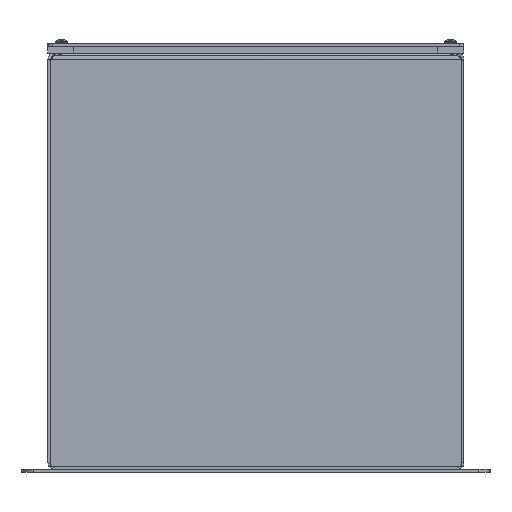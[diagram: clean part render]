
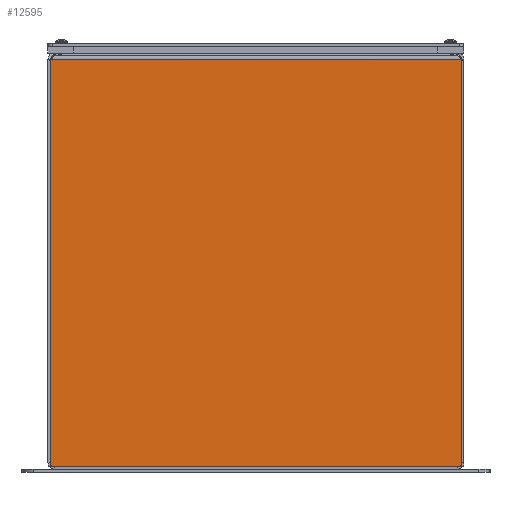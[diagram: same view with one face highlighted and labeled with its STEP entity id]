
A CAD part, left-side view. The second image highlights one B-rep face of the part: STEP entity #12595.
In plain terms, the highlighted planar face has unit normal (-1, 0, 0) as drawn and (0, 1, 0) by its records, which use the part's own axes.
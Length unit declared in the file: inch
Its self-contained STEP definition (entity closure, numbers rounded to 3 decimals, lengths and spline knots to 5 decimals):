
#252 = EDGE_CURVE ( 'NONE', #12845, #12890, #3941, .T. ) ;
#590 = DIRECTION ( 'NONE',  ( 0.931, 0., 0.364 ) ) ;
#1050 = VECTOR ( 'NONE', #590, 39.37008 ) ;
#1426 = EDGE_CURVE ( 'NONE', #4113, #12890, #13376, .T. ) ;
#1508 = DIRECTION ( 'NONE',  ( 0., 1., 0. ) ) ;
#1562 = LINE ( 'NONE', #7004, #6621 ) ;
#2343 = VERTEX_POINT ( 'NONE', #8845 ) ;
#2477 = CARTESIAN_POINT ( 'NONE',  ( -0.179, 0., -5.90257 ) ) ;
#3015 = VERTEX_POINT ( 'NONE', #2477 ) ;
#3328 = ORIENTED_EDGE ( 'NONE', *, *, #4591, .T. ) ;
#3521 = ORIENTED_EDGE ( 'NONE', *, *, #1426, .F. ) ;
#3881 = VECTOR ( 'NONE', #6009, 39.37008 ) ;
#3941 = LINE ( 'NONE', #13970, #8983 ) ;
#4113 = VERTEX_POINT ( 'NONE', #4977 ) ;
#4213 = LINE ( 'NONE', #7031, #3881 ) ;
#4324 = FACE_OUTER_BOUND ( 'NONE', #12822, .T. ) ;
#4591 = EDGE_CURVE ( 'NONE', #4113, #3015, #6422, .T. ) ;
#4896 = CARTESIAN_POINT ( 'NONE',  ( -0.179, 0., -5.90257 ) ) ;
#4977 = CARTESIAN_POINT ( 'NONE',  ( -0.179, 0., 5.90257 ) ) ;
#5117 = CARTESIAN_POINT ( 'NONE',  ( -0.21551, 0., 5.91686 ) ) ;
#5364 = EDGE_CURVE ( 'NONE', #12845, #9348, #1562, .T. ) ;
#5637 = EDGE_CURVE ( 'NONE', #2343, #3015, #9661, .T. ) ;
#5668 = AXIS2_PLACEMENT_3D ( 'NONE', #9001, #1508, #9040 ) ;
#5688 = ORIENTED_EDGE ( 'NONE', *, *, #5637, .F. ) ;
#5807 = PLANE ( 'NONE',  #5668 ) ;
#5935 = DIRECTION ( 'NONE',  ( 0., 0., -1. ) ) ;
#6009 = DIRECTION ( 'NONE',  ( 1., 0., 0. ) ) ;
#6215 = ORIENTED_EDGE ( 'NONE', *, *, #5364, .F. ) ;
#6217 = CARTESIAN_POINT ( 'NONE',  ( -0.21551, 0., 5.91686 ) ) ;
#6422 = LINE ( 'NONE', #12118, #9302 ) ;
#6621 = VECTOR ( 'NONE', #5935, 39.37008 ) ;
#6737 = DIRECTION ( 'NONE',  ( 0., 0., -1. ) ) ;
#7004 = CARTESIAN_POINT ( 'NONE',  ( -11.91686, 0., 5.91686 ) ) ;
#7031 = CARTESIAN_POINT ( 'NONE',  ( -11.91686, 0., -5.91686 ) ) ;
#7114 = EDGE_CURVE ( 'NONE', #9348, #2343, #4213, .T. ) ;
#8706 = ORIENTED_EDGE ( 'NONE', *, *, #252, .T. ) ;
#8845 = CARTESIAN_POINT ( 'NONE',  ( -0.21551, 0., -5.91686 ) ) ;
#8983 = VECTOR ( 'NONE', #13288, 39.37008 ) ;
#9001 = CARTESIAN_POINT ( 'NONE',  ( -11.91686, 0., 5.91686 ) ) ;
#9040 = DIRECTION ( 'NONE',  ( 0., 0., 1. ) ) ;
#9302 = VECTOR ( 'NONE', #6737, 39.37008 ) ;
#9348 = VERTEX_POINT ( 'NONE', #10787 ) ;
#9398 = CARTESIAN_POINT ( 'NONE',  ( -11.91686, 0., 5.91686 ) ) ;
#9596 = ORIENTED_EDGE ( 'NONE', *, *, #7114, .F. ) ;
#9661 = LINE ( 'NONE', #4896, #1050 ) ;
#10787 = CARTESIAN_POINT ( 'NONE',  ( -11.91686, 0., -5.91686 ) ) ;
#11444 = DIRECTION ( 'NONE',  ( -0.931, 0., 0.364 ) ) ;
#12118 = CARTESIAN_POINT ( 'NONE',  ( -0.179, 0., 5.90257 ) ) ;
#12595 = ADVANCED_FACE ( 'NONE', ( #4324 ), #5807, .T. ) ;
#12693 = VECTOR ( 'NONE', #11444, 39.37008 ) ;
#12822 = EDGE_LOOP ( 'NONE', ( #8706, #3521, #3328, #5688, #9596, #6215 ) ) ;
#12845 = VERTEX_POINT ( 'NONE', #9398 ) ;
#12890 = VERTEX_POINT ( 'NONE', #6217 ) ;
#13288 = DIRECTION ( 'NONE',  ( 1., 0., 0. ) ) ;
#13376 = LINE ( 'NONE', #5117, #12693 ) ;
#13970 = CARTESIAN_POINT ( 'NONE',  ( -11.91686, 0., 5.91686 ) ) ;
